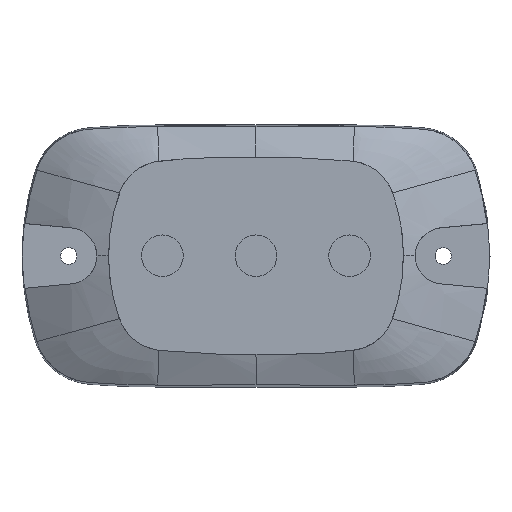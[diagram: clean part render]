
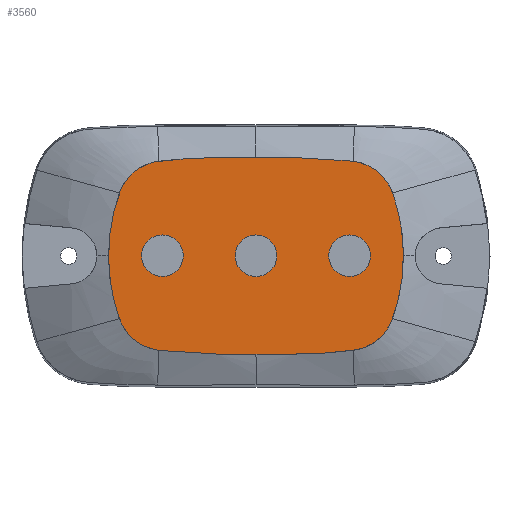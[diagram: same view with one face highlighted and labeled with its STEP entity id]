
A CAD part, top view. The second image highlights one B-rep face of the part: STEP entity #3560.
In plain terms, the highlighted planar face has unit normal (0, 0, 1).
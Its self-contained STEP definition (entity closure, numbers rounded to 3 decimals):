
#8 = CARTESIAN_POINT ( 'NONE',  ( 33.96, 0., 26.3 ) ) ;
#24 = CARTESIAN_POINT ( 'NONE',  ( 8.18, -21., 26.3 ) ) ;
#103 = DIRECTION ( 'NONE',  ( -1., 0., 0. ) ) ;
#126 = PLANE ( 'NONE',  #4391 ) ;
#160 = DIRECTION ( 'NONE',  ( 1., 0., 0. ) ) ;
#188 = CARTESIAN_POINT ( 'NONE',  ( -29.183, 13.429, 26.3 ) ) ;
#197 = CARTESIAN_POINT ( 'NONE',  ( 20., 0., 26.3 ) ) ;
#345 = DIRECTION ( 'NONE',  ( 1., 0., 0. ) ) ;
#373 = CARTESIAN_POINT ( 'NONE',  ( 27.061, -19.393, 26.3 ) ) ;
#451 = EDGE_CURVE ( 'NONE', #510, #1833, #2651, .T. ) ;
#453 = EDGE_CURVE ( 'NONE', #2316, #3541, #3464, .T. ) ;
#510 = VERTEX_POINT ( 'NONE', #3959 ) ;
#560 = CARTESIAN_POINT ( 'NONE',  ( -27.061, -19.393, 26.3 ) ) ;
#576 = ORIENTED_EDGE ( 'NONE', *, *, #587, .T. ) ;
#577 = ORIENTED_EDGE ( 'NONE', *, *, #453, .T. ) ;
#580 = ORIENTED_EDGE ( 'NONE', *, *, #3101, .F. ) ;
#582 = CARTESIAN_POINT ( 'NONE',  ( 0., 21., 26.3 ) ) ;
#587 = EDGE_CURVE ( 'NONE', #986, #1919, #2419, .T. ) ;
#588 = CARTESIAN_POINT ( 'NONE',  ( -20., 0., 26.3 ) ) ;
#601 = FACE_OUTER_BOUND ( 'NONE', #3194, .T. ) ;
#603 = DIRECTION ( 'NONE',  ( 0., 0., -1. ) ) ;
#741 = CARTESIAN_POINT ( 'NONE',  ( 14.506, -20.994, 26.3 ) ) ;
#761 = VECTOR ( 'NONE', #3381, 1000. ) ;
#804 = CARTESIAN_POINT ( 'NONE',  ( -15.55, 0., 26.3 ) ) ;
#817 = CIRCLE ( 'NONE', #1098, 4.45 ) ;
#836 = CARTESIAN_POINT ( 'NONE',  ( 8.18, 21., 26.3 ) ) ;
#855 = DIRECTION ( 'NONE',  ( 1., 0., 0. ) ) ;
#922 = AXIS2_PLACEMENT_3D ( 'NONE', #197, #2307, #4338 ) ;
#986 = VERTEX_POINT ( 'NONE', #804 ) ;
#997 = CARTESIAN_POINT ( 'NONE',  ( -8.18, 21., 26.3 ) ) ;
#1017 = CARTESIAN_POINT ( 'NONE',  ( -8.18, -21., 26.3 ) ) ;
#1038 = CARTESIAN_POINT ( 'NONE',  ( -27.061, 19.393, 26.3 ) ) ;
#1068 = CARTESIAN_POINT ( 'NONE',  ( 20.781, 20.194, 26.3 ) ) ;
#1098 = AXIS2_PLACEMENT_3D ( 'NONE', #3266, #1172, #3607 ) ;
#1172 = DIRECTION ( 'NONE',  ( 0., 0., -1. ) ) ;
#1191 = DIRECTION ( 'NONE',  ( 1., 0., 0. ) ) ;
#1272 = ORIENTED_EDGE ( 'NONE', *, *, #4030, .F. ) ;
#1377 = EDGE_CURVE ( 'NONE', #1833, #510, #3865, .T. ) ;
#1530 = FACE_BOUND ( 'NONE', #4054, .T. ) ;
#1547 = CARTESIAN_POINT ( 'NONE',  ( 0., 0., 26.3 ) ) ;
#1613 = ORIENTED_EDGE ( 'NONE', *, *, #2377, .T. ) ;
#1630 = AXIS2_PLACEMENT_3D ( 'NONE', #1547, #3629, #1191 ) ;
#1647 = FACE_BOUND ( 'NONE', #2156, .T. ) ;
#1687 = VECTOR ( 'NONE', #103, 1000. ) ;
#1740 = CIRCLE ( 'NONE', #1756, 4.45 ) ;
#1756 = AXIS2_PLACEMENT_3D ( 'NONE', #4552, #2445, #345 ) ;
#1790 = EDGE_CURVE ( 'NONE', #1993, #2986, #3739, .T. ) ;
#1830 = AXIS2_PLACEMENT_3D ( 'NONE', #4372, #2274, #160 ) ;
#1833 = VERTEX_POINT ( 'NONE', #2770 ) ;
#1854 = AXIS2_PLACEMENT_3D ( 'NONE', #588, #603, #2698 ) ;
#1919 = VERTEX_POINT ( 'NONE', #2550 ) ;
#1969 = CARTESIAN_POINT ( 'NONE',  ( -8.18, 21., 26.3 ) ) ;
#1993 = VERTEX_POINT ( 'NONE', #1017 ) ;
#2004 = CARTESIAN_POINT ( 'NONE',  ( -8.18, -21., 26.3 ) ) ;
#2131 = CARTESIAN_POINT ( 'NONE',  ( 29.183, 13.429, 26.3 ) ) ;
#2156 = EDGE_LOOP ( 'NONE', ( #577, #1613 ) ) ;
#2274 = DIRECTION ( 'NONE',  ( 0., 0., -1. ) ) ;
#2307 = DIRECTION ( 'NONE',  ( 0., 0., -1. ) ) ;
#2316 = VERTEX_POINT ( 'NONE', #2500 ) ;
#2377 = EDGE_CURVE ( 'NONE', #3541, #2316, #1740, .T. ) ;
#2419 = CIRCLE ( 'NONE', #1854, 4.45 ) ;
#2445 = DIRECTION ( 'NONE',  ( 0., 0., -1. ) ) ;
#2473 = CARTESIAN_POINT ( 'NONE',  ( 29.183, -13.429, 26.3 ) ) ;
#2500 = CARTESIAN_POINT ( 'NONE',  ( 4.45, 0., 26.3 ) ) ;
#2550 = CARTESIAN_POINT ( 'NONE',  ( -24.45, 0., 26.3 ) ) ;
#2575 = CARTESIAN_POINT ( 'NONE',  ( -4.45, 0., 26.3 ) ) ;
#2581 = ORIENTED_EDGE ( 'NONE', *, *, #1377, .T. ) ;
#2592 = CARTESIAN_POINT ( 'NONE',  ( -32.13, -21., 26.3 ) ) ;
#2651 = CIRCLE ( 'NONE', #922, 4.45 ) ;
#2689 = CARTESIAN_POINT ( 'NONE',  ( -14.506, 20.994, 26.3 ) ) ;
#2698 = DIRECTION ( 'NONE',  ( 1., 0., 0. ) ) ;
#2770 = CARTESIAN_POINT ( 'NONE',  ( 24.45, 0., 26.3 ) ) ;
#2813 = CARTESIAN_POINT ( 'NONE',  ( -33.96, 0., 26.3 ) ) ;
#2834 = CARTESIAN_POINT ( 'NONE',  ( 20.781, -20.194, 26.3 ) ) ;
#2952 = DIRECTION ( 'NONE',  ( 0., 0., 1. ) ) ;
#2986 = VERTEX_POINT ( 'NONE', #997 ) ;
#3101 = EDGE_CURVE ( 'NONE', #3475, #1993, #3525, .T. ) ;
#3122 =( BOUNDED_CURVE ( )  B_SPLINE_CURVE ( 2, ( #3857, #3514, #1068, #4219, #2131, #8, #2473, #373, #2834, #741, #3180 ),
 .UNSPECIFIED., .F., .F. ) 
 B_SPLINE_CURVE_WITH_KNOTS ( ( 3, 2, 2, 2, 2, 3 ),
 ( 0., 0.013, 0.024, 0.052, 0.063, 0.076 ),
 .UNSPECIFIED. ) 
 CURVE ( )  GEOMETRIC_REPRESENTATION_ITEM ( )  RATIONAL_B_SPLINE_CURVE ( ( 1., 0.998, 1., 0.852, 1., 0.942, 1., 0.852, 1., 0.998, 1. ) ) 
 REPRESENTATION_ITEM ( '' )  );
#3144 = ORIENTED_EDGE ( 'NONE', *, *, #3481, .T. ) ;
#3180 = CARTESIAN_POINT ( 'NONE',  ( 8.18, -21., 26.3 ) ) ;
#3194 = EDGE_LOOP ( 'NONE', ( #580, #4567, #1272, #3659 ) ) ;
#3266 = CARTESIAN_POINT ( 'NONE',  ( -20., 0., 26.3 ) ) ;
#3381 = DIRECTION ( 'NONE',  ( 1., 0., 0. ) ) ;
#3407 = CARTESIAN_POINT ( 'NONE',  ( -20.781, -20.194, 26.3 ) ) ;
#3437 = EDGE_CURVE ( 'NONE', #3827, #3475, #3122, .T. ) ;
#3464 = CIRCLE ( 'NONE', #1630, 4.45 ) ;
#3475 = VERTEX_POINT ( 'NONE', #24 ) ;
#3481 = EDGE_CURVE ( 'NONE', #1919, #986, #817, .T. ) ;
#3514 = CARTESIAN_POINT ( 'NONE',  ( 14.506, 20.994, 26.3 ) ) ;
#3525 = LINE ( 'NONE', #4311, #1687 ) ;
#3541 = VERTEX_POINT ( 'NONE', #2575 ) ;
#3560 = ADVANCED_FACE ( 'NONE', ( #4201, #1647, #1530, #601 ), #126, .T. ) ;
#3600 = ORIENTED_EDGE ( 'NONE', *, *, #451, .T. ) ;
#3607 = DIRECTION ( 'NONE',  ( 1., 0., 0. ) ) ;
#3629 = DIRECTION ( 'NONE',  ( 0., 0., -1. ) ) ;
#3659 = ORIENTED_EDGE ( 'NONE', *, *, #1790, .F. ) ;
#3717 = EDGE_LOOP ( 'NONE', ( #2581, #3600 ) ) ;
#3739 =( BOUNDED_CURVE ( )  B_SPLINE_CURVE ( 2, ( #2004, #4465, #3407, #560, #4381, #2813, #188, #1038, #4479, #2689, #1969 ),
 .UNSPECIFIED., .F., .T. ) 
 B_SPLINE_CURVE_WITH_KNOTS ( ( 3, 2, 2, 2, 2, 3 ),
 ( 0., 0.013, 0.024, 0.052, 0.063, 0.076 ),
 .UNSPECIFIED. ) 
 CURVE ( )  GEOMETRIC_REPRESENTATION_ITEM ( )  RATIONAL_B_SPLINE_CURVE ( ( 1., 0.998, 1., 0.852, 1., 0.942, 1., 0.852, 1., 0.998, 1. ) ) 
 REPRESENTATION_ITEM ( '' )  );
#3827 = VERTEX_POINT ( 'NONE', #836 ) ;
#3857 = CARTESIAN_POINT ( 'NONE',  ( 8.18, 21., 26.3 ) ) ;
#3865 = CIRCLE ( 'NONE', #1830, 4.45 ) ;
#3959 = CARTESIAN_POINT ( 'NONE',  ( 15.55, 0., 26.3 ) ) ;
#4030 = EDGE_CURVE ( 'NONE', #2986, #3827, #4487, .T. ) ;
#4054 = EDGE_LOOP ( 'NONE', ( #576, #3144 ) ) ;
#4201 = FACE_BOUND ( 'NONE', #3717, .T. ) ;
#4219 = CARTESIAN_POINT ( 'NONE',  ( 27.061, 19.393, 26.3 ) ) ;
#4311 = CARTESIAN_POINT ( 'NONE',  ( 0., -21., 26.3 ) ) ;
#4338 = DIRECTION ( 'NONE',  ( 1., 0., 0. ) ) ;
#4372 = CARTESIAN_POINT ( 'NONE',  ( 20., 0., 26.3 ) ) ;
#4381 = CARTESIAN_POINT ( 'NONE',  ( -29.183, -13.429, 26.3 ) ) ;
#4391 = AXIS2_PLACEMENT_3D ( 'NONE', #2592, #2952, #855 ) ;
#4465 = CARTESIAN_POINT ( 'NONE',  ( -14.506, -20.994, 26.3 ) ) ;
#4479 = CARTESIAN_POINT ( 'NONE',  ( -20.781, 20.194, 26.3 ) ) ;
#4487 = LINE ( 'NONE', #582, #761 ) ;
#4552 = CARTESIAN_POINT ( 'NONE',  ( 0., 0., 26.3 ) ) ;
#4567 = ORIENTED_EDGE ( 'NONE', *, *, #3437, .F. ) ;
